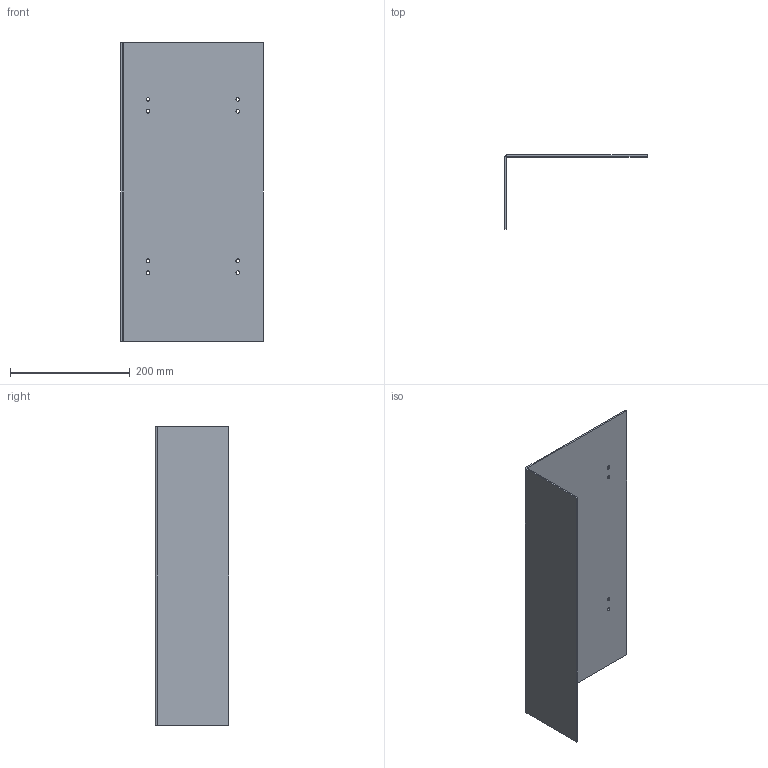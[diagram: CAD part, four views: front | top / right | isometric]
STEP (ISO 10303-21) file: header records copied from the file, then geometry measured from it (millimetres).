
FILE_DESCRIPTION (( 'STEP AP214' ), '1' );
FILE_NAME ('NF-600_Halb.STEP', '2018-12-21T13:48:09', ( '' ), ( '' ), 'SwSTEP 2.0', 'SolidWorks 2018', '' );
FILE_SCHEMA (( 'AUTOMOTIVE_DESIGN' ));
Length unit declared in the file: millimetre
Products named in the file (1): NF-600_Halb
Bounding box: 238 x 123 x 500 mm (x, y, z)
Volume: 535463 mm3; surface area: 362286.2 mm2
Topology: 1 solids, 1 shells, 26 faces, 72 edges, 48 vertices
Faces by surface type: cylinder 18, plane 8
Entity records: 951 total; most frequent: DIRECTION 162, CARTESIAN_POINT 147, ORIENTED_EDGE 144, EDGE_CURVE 72, AXIS2_PLACEMENT_3D 63, VERTEX_POINT 48, EDGE_LOOP 42, LINE 36
